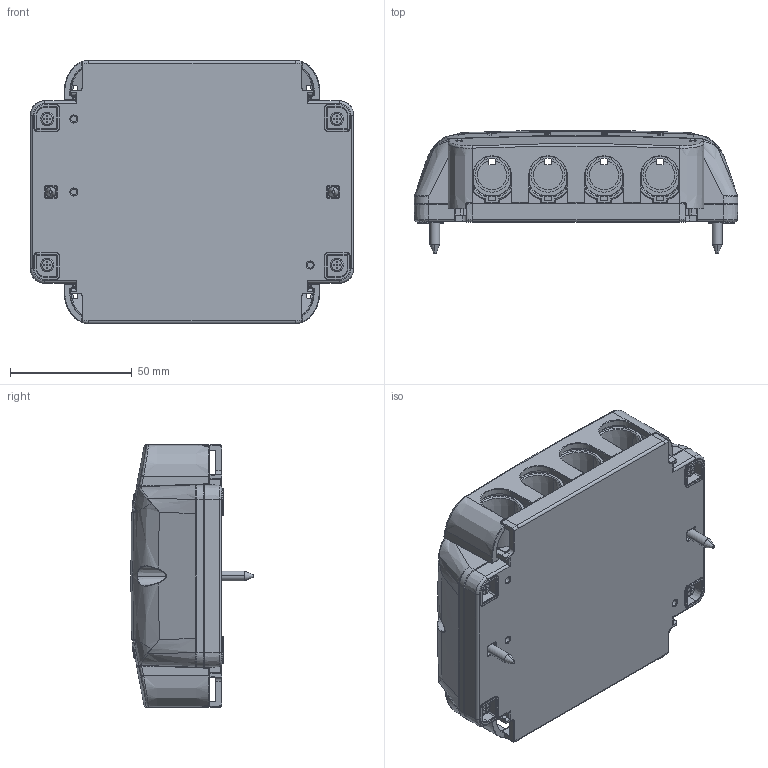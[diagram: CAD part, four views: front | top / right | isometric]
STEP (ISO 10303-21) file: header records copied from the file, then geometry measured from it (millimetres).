
FILE_DESCRIPTION((''),'2;1');
FILE_NAME('JB3-0502-ASM_ASM_ASM','2019-08-01T',('user'),(''),'PRO/ENGINEER BY PARAMETRIC TECHNOLOGY CORPORATION, 2008090','PRO/ENGINEER BY PARAMETRIC TECHNOLOGY CORPORATION, 2008090','');
FILE_SCHEMA(('CONFIG_CONTROL_DESIGN'));
Products named in the file (1): JB3-0502-ASM_ASM_ASM
Bounding box: 133 x 50.28 x 108 mm (x, y, z)
Surface area: 145854.1 mm2 (no closed solid volume)
Topology: 0 solids, 11 shells, 2755 faces, 7297 edges, 4632 vertices
Faces by surface type: plane 1324, cylinder 640, bspline 252, torus 218, cone 158, extrusion 123, sphere 40
Entity records: 109948 total; most frequent: CARTESIAN_POINT 44557, ORIENTED_EDGE 14594, DIRECTION 12063, EDGE_CURVE 7297, VERTEX_POINT 4632, VECTOR 4383, LINE 4260, AXIS2_PLACEMENT_3D 3840
